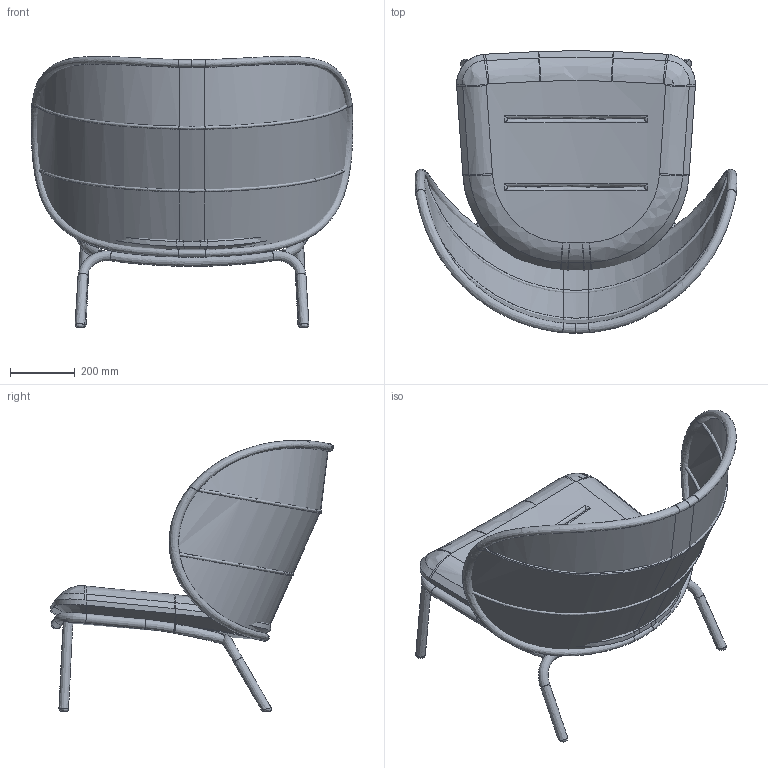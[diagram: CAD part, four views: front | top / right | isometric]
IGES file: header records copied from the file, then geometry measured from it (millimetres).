
Global section: file name: VincentSheppard_Kodo_Lounge; native system: unknown; preprocessor: unknown; author: unknown; organization: unknown; date: 20190924.082426; units: millimetre
Bounding box: 992.97 x 873.06 x 837.34 mm (x, y, z)
Volume: 42183331.1 mm3; surface area: 3343040.6 mm2
Topology: 9 solids, 9 shells, 198 faces, 554 edges, 378 vertices
Faces by surface type: bspline 198
